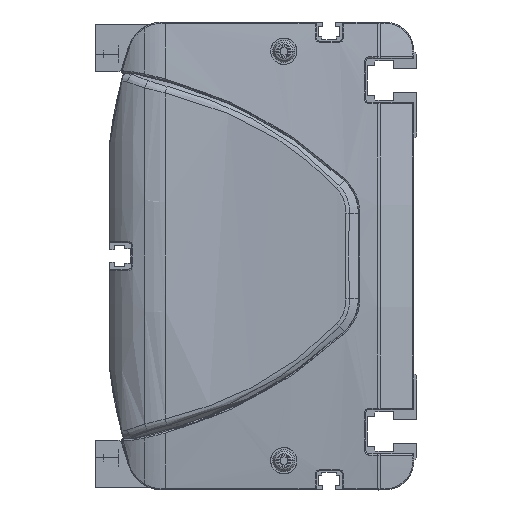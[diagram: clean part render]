
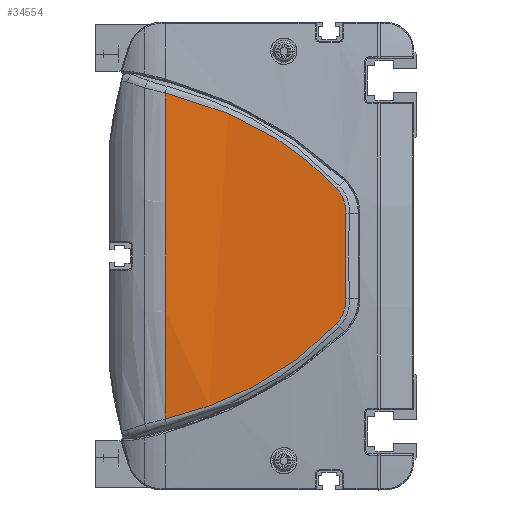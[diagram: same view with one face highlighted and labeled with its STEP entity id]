
A CAD part, left-side view. The second image highlights one B-rep face of the part: STEP entity #34554.
In plain terms, the highlighted cylindrical face has radius 600 mm (diameter 1200 mm), a partial arc.
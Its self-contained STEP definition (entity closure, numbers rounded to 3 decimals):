
#11538=CARTESIAN_POINT('',(-12.406,86.,
55.736));
#11539=CARTESIAN_POINT('',(-12.529,80.495,
54.41));
#11540=CARTESIAN_POINT('',(-12.828,69.636,
51.114));
#11541=CARTESIAN_POINT('',(-13.389,54.079,
44.179));
#11542=CARTESIAN_POINT('',(-14.01,39.709,
34.979));
#11543=CARTESIAN_POINT('',(-14.395,31.353,
27.243));
#11544=CARTESIAN_POINT('',(-14.555,27.451,
23.113));
#11546=CARTESIAN_POINT('',(-14.555,27.451,
23.113));
#11547=CARTESIAN_POINT('',(-14.641,25.336,
20.875));
#11548=CARTESIAN_POINT('',(-14.745,24.202,
17.745));
#11549=CARTESIAN_POINT('',(-14.821,24.351,
14.67));
#11551=CARTESIAN_POINT('',(-14.821,24.351,
14.67));
#11552=CARTESIAN_POINT('',(-14.9,24.51,
11.413));
#11553=CARTESIAN_POINT('',(-15.007,24.721,
4.895));
#11554=CARTESIAN_POINT('',(-15.007,24.721,
-4.895));
#11555=CARTESIAN_POINT('',(-14.9,24.51,
-11.413));
#11556=CARTESIAN_POINT('',(-14.821,24.351,
-14.67));
#11558=CARTESIAN_POINT('',(-14.821,24.351,
-14.67));
#11559=CARTESIAN_POINT('',(-14.745,24.202,
-17.745));
#11560=CARTESIAN_POINT('',(-14.641,25.337,
-20.876));
#11561=CARTESIAN_POINT('',(-14.555,27.451,
-23.113));
#11563=CARTESIAN_POINT('',(-14.555,27.451,
-23.113));
#11564=CARTESIAN_POINT('',(-14.395,31.353,
-27.243));
#11565=CARTESIAN_POINT('',(-14.01,39.709,
-34.979));
#11566=CARTESIAN_POINT('',(-13.389,54.079,
-44.179));
#11567=CARTESIAN_POINT('',(-12.828,69.636,
-51.114));
#11568=CARTESIAN_POINT('',(-12.529,80.495,
-54.41));
#11569=CARTESIAN_POINT('',(-12.406,86.,
-55.736));
#11571=CARTESIAN_POINT('',(585.,86.,0.));
#11572=DIRECTION('',(0.,1.,0.));
#11573=DIRECTION('',(-0.996,0.,-0.093));
#11574=AXIS2_PLACEMENT_3D('',#11571,#11572,#11573);
#11587=CARTESIAN_POINT('',(-12.406,86.,
55.736));
#15089=VERTEX_POINT('',#11587);
#15090=CARTESIAN_POINT('',(-12.406,86.,
-55.736));
#15091=VERTEX_POINT('',#15090);
#15141=VERTEX_POINT('',#11544);
#15142=VERTEX_POINT('',#11549);
#15143=VERTEX_POINT('',#11556);
#15144=VERTEX_POINT('',#11561);
#34536=CARTESIAN_POINT('',(585.,87.45,0.));
#34537=DIRECTION('',(0.,-1.,0.));
#34538=DIRECTION('',(0.,0.,-1.));
#34539=AXIS2_PLACEMENT_3D('',#34536,#34537,#34538);
#34540=CYLINDRICAL_SURFACE('',#34539,600.);
#34542=ORIENTED_EDGE('',*,*,#34541,.T.);
#34544=ORIENTED_EDGE('',*,*,#34543,.T.);
#34545=ORIENTED_EDGE('',*,*,#34526,.T.);
#34547=ORIENTED_EDGE('',*,*,#34546,.T.);
#34549=ORIENTED_EDGE('',*,*,#34548,.T.);
#34551=ORIENTED_EDGE('',*,*,#34550,.T.);
#34552=EDGE_LOOP('',(#34542,#34544,#34545,#34547,#34549,#34551));
#34553=FACE_OUTER_BOUND('',#34552,.F.);
#34554=ADVANCED_FACE('',(#34553),#34540,.T.);
#11545=B_SPLINE_CURVE_WITH_KNOTS('',3,(#11538,#11539,#11540,#11541,#11542,
#11543,#11544),.UNSPECIFIED.,.F.,.F.,(4,1,1,1,4),(0.,0.25,0.5,0.75,
1.),.UNSPECIFIED.);
#11550=B_SPLINE_CURVE_WITH_KNOTS('',3,(#11546,#11547,#11548,#11549),
.UNSPECIFIED.,.F.,.F.,(4,4),(0.,1.),.UNSPECIFIED.);
#11557=B_SPLINE_CURVE_WITH_KNOTS('',3,(#11551,#11552,#11553,#11554,#11555,
#11556),.UNSPECIFIED.,.F.,.F.,(4,1,1,4),(0.,0.333,
0.667,1.),.UNSPECIFIED.);
#11562=B_SPLINE_CURVE_WITH_KNOTS('',3,(#11558,#11559,#11560,#11561),
.UNSPECIFIED.,.F.,.F.,(4,4),(0.,1.),.UNSPECIFIED.);
#11570=B_SPLINE_CURVE_WITH_KNOTS('',3,(#11563,#11564,#11565,#11566,#11567,
#11568,#11569),.UNSPECIFIED.,.F.,.F.,(4,1,1,1,4),(0.,0.25,0.5,0.75,
1.),.UNSPECIFIED.);
#11575=CIRCLE('',#11574,600.);
#34526=EDGE_CURVE('',#15142,#15143,#11557,.T.);
#34541=EDGE_CURVE('',#15089,#15141,#11545,.T.);
#34543=EDGE_CURVE('',#15141,#15142,#11550,.T.);
#34546=EDGE_CURVE('',#15143,#15144,#11562,.T.);
#34548=EDGE_CURVE('',#15144,#15091,#11570,.T.);
#34550=EDGE_CURVE('',#15091,#15089,#11575,.T.);
